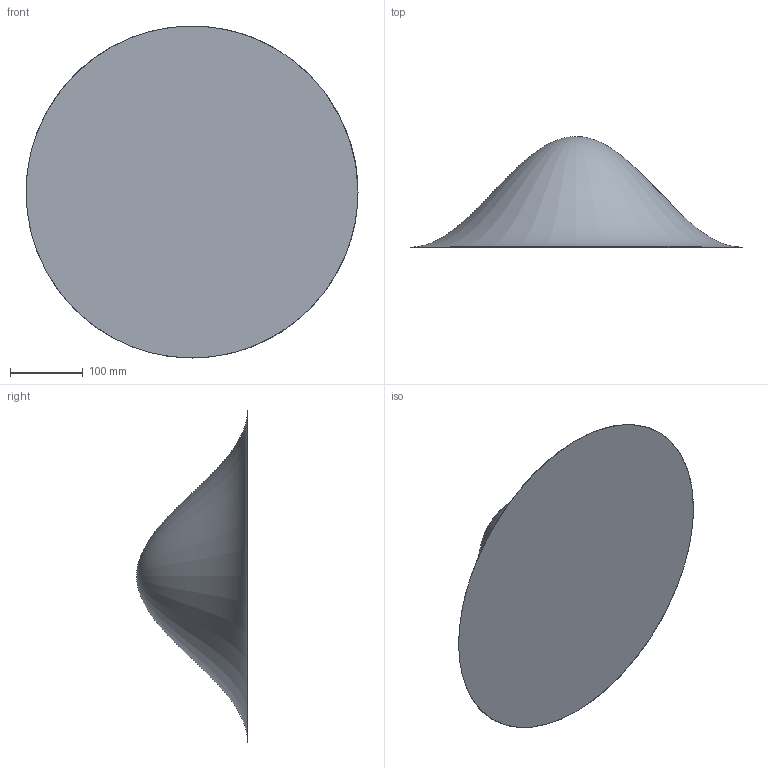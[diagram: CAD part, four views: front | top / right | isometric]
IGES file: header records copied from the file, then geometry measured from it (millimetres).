
Global section: file name: C:\faith_model_tc2.igs; native system: Rhinoceros ( Feb 22 2008 ); preprocessor: Trout Lake IGES 012 Feb 22 2008; author: Kurt Long; organization: 10HNASA Ames; date: 090702.182446; units: inch
Bounding box: 457.2 x 152.4 x 457.2 mm (x, y, z)
Surface area: 366786.4 mm2 (no closed solid volume)
Topology: 0 solids, 0 shells, 2 faces, 21 edges, 20 vertices
Faces by surface type: bspline 2
